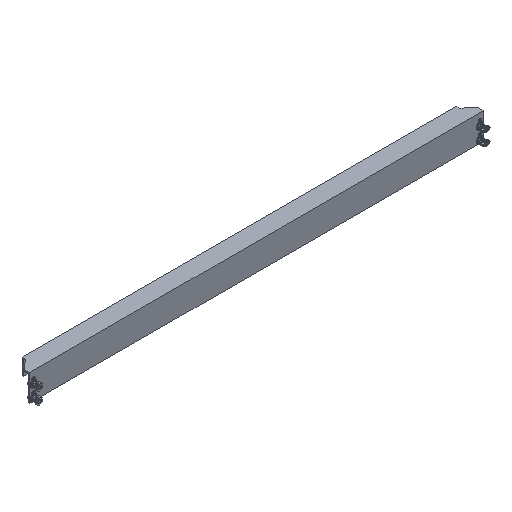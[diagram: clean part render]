
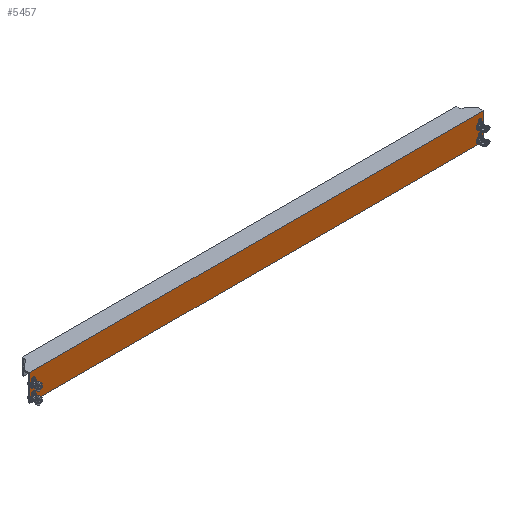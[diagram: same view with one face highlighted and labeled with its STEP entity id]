
A CAD part, isometric view. The second image highlights one B-rep face of the part: STEP entity #5457.
In plain terms, the highlighted planar face has unit normal (0, -1, 0) as drawn and (0, 0, -1) by its records, which use the part's own axes.
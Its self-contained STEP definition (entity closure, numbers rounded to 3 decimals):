
#4306 = VERTEX_POINT('',#4307);
#4307 = CARTESIAN_POINT('',(470.,16.5,-36.));
#4313 = EDGE_CURVE('',#4314,#4306,#4316,.T.);
#4314 = VERTEX_POINT('',#4315);
#4315 = CARTESIAN_POINT('',(-470.,16.5,-36.));
#4316 = LINE('',#4317,#4318);
#4317 = CARTESIAN_POINT('',(0.,16.5,-36.));
#4318 = VECTOR('',#4319,1.);
#4319 = DIRECTION('',(1.,-0.,-0.));
#5336 = VERTEX_POINT('',#5337);
#5337 = CARTESIAN_POINT('',(-470.,12.9,-36.));
#5352 = EDGE_CURVE('',#5336,#4314,#5353,.T.);
#5353 = LINE('',#5354,#5355);
#5354 = CARTESIAN_POINT('',(-470.,12.9,-36.));
#5355 = VECTOR('',#5356,1.);
#5356 = DIRECTION('',(-0.,1.,0.));
#5376 = VERTEX_POINT('',#5377);
#5377 = CARTESIAN_POINT('',(470.,12.9,-36.));
#5383 = EDGE_CURVE('',#5376,#4306,#5384,.T.);
#5384 = LINE('',#5385,#5386);
#5385 = CARTESIAN_POINT('',(470.,0.,-36.));
#5386 = VECTOR('',#5387,1.);
#5387 = DIRECTION('',(0.,1.,0.));
#5399 = EDGE_CURVE('',#5400,#5376,#5402,.T.);
#5400 = VERTEX_POINT('',#5401);
#5401 = CARTESIAN_POINT('',(470.,-38.5,-36.));
#5402 = LINE('',#5403,#5404);
#5403 = CARTESIAN_POINT('',(470.,13.5,-36.));
#5404 = VECTOR('',#5405,1.);
#5405 = DIRECTION('',(-0.,1.,0.));
#5439 = EDGE_CURVE('',#5336,#5440,#5442,.T.);
#5440 = VERTEX_POINT('',#5441);
#5441 = CARTESIAN_POINT('',(-470.,-38.5,-36.));
#5442 = LINE('',#5443,#5444);
#5443 = CARTESIAN_POINT('',(-470.,-38.5,-36.));
#5444 = VECTOR('',#5445,1.);
#5445 = DIRECTION('',(0.,-1.,0.));
#5457 = ADVANCED_FACE('',(#5458,#5494,#5530,#5566,#5602),#5615,.T.);
#5458 = FACE_BOUND('',#5459,.T.);
#5459 = EDGE_LOOP('',(#5460,#5471,#5479,#5488));
#5460 = ORIENTED_EDGE('',*,*,#5461,.F.);
#5461 = EDGE_CURVE('',#5462,#5464,#5466,.T.);
#5462 = VERTEX_POINT('',#5463);
#5463 = CARTESIAN_POINT('',(459.,-23.,-36.));
#5464 = VERTEX_POINT('',#5465);
#5465 = CARTESIAN_POINT('',(466.,-23.,-36.));
#5466 = CIRCLE('',#5467,3.5);
#5467 = AXIS2_PLACEMENT_3D('',#5468,#5469,#5470);
#5468 = CARTESIAN_POINT('',(462.5,-23.,-36.));
#5469 = DIRECTION('',(0.,0.,-1.));
#5470 = DIRECTION('',(0.,1.,0.));
#5471 = ORIENTED_EDGE('',*,*,#5472,.F.);
#5472 = EDGE_CURVE('',#5473,#5462,#5475,.T.);
#5473 = VERTEX_POINT('',#5474);
#5474 = CARTESIAN_POINT('',(459.,-32.,-36.));
#5475 = LINE('',#5476,#5477);
#5476 = CARTESIAN_POINT('',(459.,0.,-36.));
#5477 = VECTOR('',#5478,1.);
#5478 = DIRECTION('',(0.,1.,0.));
#5479 = ORIENTED_EDGE('',*,*,#5480,.F.);
#5480 = EDGE_CURVE('',#5481,#5473,#5483,.T.);
#5481 = VERTEX_POINT('',#5482);
#5482 = CARTESIAN_POINT('',(466.,-32.,-36.));
#5483 = CIRCLE('',#5484,3.5);
#5484 = AXIS2_PLACEMENT_3D('',#5485,#5486,#5487);
#5485 = CARTESIAN_POINT('',(462.5,-32.,-36.));
#5486 = DIRECTION('',(0.,0.,-1.));
#5487 = DIRECTION('',(0.,1.,0.));
#5488 = ORIENTED_EDGE('',*,*,#5489,.F.);
#5489 = EDGE_CURVE('',#5464,#5481,#5490,.T.);
#5490 = LINE('',#5491,#5492);
#5491 = CARTESIAN_POINT('',(466.,0.,-36.));
#5492 = VECTOR('',#5493,1.);
#5493 = DIRECTION('',(0.,-1.,0.));
#5494 = FACE_BOUND('',#5495,.T.);
#5495 = EDGE_LOOP('',(#5496,#5507,#5515,#5524));
#5496 = ORIENTED_EDGE('',*,*,#5497,.F.);
#5497 = EDGE_CURVE('',#5498,#5500,#5502,.T.);
#5498 = VERTEX_POINT('',#5499);
#5499 = CARTESIAN_POINT('',(-466.,-23.,-36.));
#5500 = VERTEX_POINT('',#5501);
#5501 = CARTESIAN_POINT('',(-459.,-23.,-36.));
#5502 = CIRCLE('',#5503,3.5);
#5503 = AXIS2_PLACEMENT_3D('',#5504,#5505,#5506);
#5504 = CARTESIAN_POINT('',(-462.5,-23.,-36.));
#5505 = DIRECTION('',(0.,0.,-1.));
#5506 = DIRECTION('',(0.,1.,0.));
#5507 = ORIENTED_EDGE('',*,*,#5508,.F.);
#5508 = EDGE_CURVE('',#5509,#5498,#5511,.T.);
#5509 = VERTEX_POINT('',#5510);
#5510 = CARTESIAN_POINT('',(-466.,-32.,-36.));
#5511 = LINE('',#5512,#5513);
#5512 = CARTESIAN_POINT('',(-466.,0.,-36.));
#5513 = VECTOR('',#5514,1.);
#5514 = DIRECTION('',(0.,1.,0.));
#5515 = ORIENTED_EDGE('',*,*,#5516,.F.);
#5516 = EDGE_CURVE('',#5517,#5509,#5519,.T.);
#5517 = VERTEX_POINT('',#5518);
#5518 = CARTESIAN_POINT('',(-459.,-32.,-36.));
#5519 = CIRCLE('',#5520,3.5);
#5520 = AXIS2_PLACEMENT_3D('',#5521,#5522,#5523);
#5521 = CARTESIAN_POINT('',(-462.5,-32.,-36.));
#5522 = DIRECTION('',(0.,0.,-1.));
#5523 = DIRECTION('',(0.,1.,0.));
#5524 = ORIENTED_EDGE('',*,*,#5525,.F.);
#5525 = EDGE_CURVE('',#5500,#5517,#5526,.T.);
#5526 = LINE('',#5527,#5528);
#5527 = CARTESIAN_POINT('',(-459.,0.,-36.));
#5528 = VECTOR('',#5529,1.);
#5529 = DIRECTION('',(0.,-1.,0.));
#5530 = FACE_BOUND('',#5531,.T.);
#5531 = EDGE_LOOP('',(#5532,#5543,#5551,#5560));
#5532 = ORIENTED_EDGE('',*,*,#5533,.F.);
#5533 = EDGE_CURVE('',#5534,#5536,#5538,.T.);
#5534 = VERTEX_POINT('',#5535);
#5535 = CARTESIAN_POINT('',(459.,2.,-36.));
#5536 = VERTEX_POINT('',#5537);
#5537 = CARTESIAN_POINT('',(466.,2.,-36.));
#5538 = CIRCLE('',#5539,3.5);
#5539 = AXIS2_PLACEMENT_3D('',#5540,#5541,#5542);
#5540 = CARTESIAN_POINT('',(462.5,2.,-36.));
#5541 = DIRECTION('',(0.,0.,-1.));
#5542 = DIRECTION('',(0.,1.,0.));
#5543 = ORIENTED_EDGE('',*,*,#5544,.F.);
#5544 = EDGE_CURVE('',#5545,#5534,#5547,.T.);
#5545 = VERTEX_POINT('',#5546);
#5546 = CARTESIAN_POINT('',(459.,-7.,-36.));
#5547 = LINE('',#5548,#5549);
#5548 = CARTESIAN_POINT('',(459.,0.,-36.));
#5549 = VECTOR('',#5550,1.);
#5550 = DIRECTION('',(0.,1.,0.));
#5551 = ORIENTED_EDGE('',*,*,#5552,.F.);
#5552 = EDGE_CURVE('',#5553,#5545,#5555,.T.);
#5553 = VERTEX_POINT('',#5554);
#5554 = CARTESIAN_POINT('',(466.,-7.,-36.));
#5555 = CIRCLE('',#5556,3.5);
#5556 = AXIS2_PLACEMENT_3D('',#5557,#5558,#5559);
#5557 = CARTESIAN_POINT('',(462.5,-7.,-36.));
#5558 = DIRECTION('',(0.,0.,-1.));
#5559 = DIRECTION('',(0.,1.,0.));
#5560 = ORIENTED_EDGE('',*,*,#5561,.F.);
#5561 = EDGE_CURVE('',#5536,#5553,#5562,.T.);
#5562 = LINE('',#5563,#5564);
#5563 = CARTESIAN_POINT('',(466.,0.,-36.));
#5564 = VECTOR('',#5565,1.);
#5565 = DIRECTION('',(0.,-1.,0.));
#5566 = FACE_BOUND('',#5567,.T.);
#5567 = EDGE_LOOP('',(#5568,#5579,#5587,#5596));
#5568 = ORIENTED_EDGE('',*,*,#5569,.F.);
#5569 = EDGE_CURVE('',#5570,#5572,#5574,.T.);
#5570 = VERTEX_POINT('',#5571);
#5571 = CARTESIAN_POINT('',(-466.,2.,-36.));
#5572 = VERTEX_POINT('',#5573);
#5573 = CARTESIAN_POINT('',(-459.,2.,-36.));
#5574 = CIRCLE('',#5575,3.5);
#5575 = AXIS2_PLACEMENT_3D('',#5576,#5577,#5578);
#5576 = CARTESIAN_POINT('',(-462.5,2.,-36.));
#5577 = DIRECTION('',(0.,0.,-1.));
#5578 = DIRECTION('',(0.,1.,0.));
#5579 = ORIENTED_EDGE('',*,*,#5580,.F.);
#5580 = EDGE_CURVE('',#5581,#5570,#5583,.T.);
#5581 = VERTEX_POINT('',#5582);
#5582 = CARTESIAN_POINT('',(-466.,-7.,-36.));
#5583 = LINE('',#5584,#5585);
#5584 = CARTESIAN_POINT('',(-466.,0.,-36.));
#5585 = VECTOR('',#5586,1.);
#5586 = DIRECTION('',(0.,1.,0.));
#5587 = ORIENTED_EDGE('',*,*,#5588,.F.);
#5588 = EDGE_CURVE('',#5589,#5581,#5591,.T.);
#5589 = VERTEX_POINT('',#5590);
#5590 = CARTESIAN_POINT('',(-459.,-7.,-36.));
#5591 = CIRCLE('',#5592,3.5);
#5592 = AXIS2_PLACEMENT_3D('',#5593,#5594,#5595);
#5593 = CARTESIAN_POINT('',(-462.5,-7.,-36.));
#5594 = DIRECTION('',(0.,0.,-1.));
#5595 = DIRECTION('',(0.,1.,0.));
#5596 = ORIENTED_EDGE('',*,*,#5597,.F.);
#5597 = EDGE_CURVE('',#5572,#5589,#5598,.T.);
#5598 = LINE('',#5599,#5600);
#5599 = CARTESIAN_POINT('',(-459.,0.,-36.));
#5600 = VECTOR('',#5601,1.);
#5601 = DIRECTION('',(0.,-1.,0.));
#5602 = FACE_BOUND('',#5603,.T.);
#5603 = EDGE_LOOP('',(#5604,#5605,#5606,#5607,#5608,#5609));
#5604 = ORIENTED_EDGE('',*,*,#5439,.F.);
#5605 = ORIENTED_EDGE('',*,*,#5352,.T.);
#5606 = ORIENTED_EDGE('',*,*,#4313,.T.);
#5607 = ORIENTED_EDGE('',*,*,#5383,.F.);
#5608 = ORIENTED_EDGE('',*,*,#5399,.F.);
#5609 = ORIENTED_EDGE('',*,*,#5610,.F.);
#5610 = EDGE_CURVE('',#5440,#5400,#5611,.T.);
#5611 = LINE('',#5612,#5613);
#5612 = CARTESIAN_POINT('',(470.,-38.5,-36.));
#5613 = VECTOR('',#5614,1.);
#5614 = DIRECTION('',(1.,0.,0.));
#5615 = PLANE('',#5616);
#5616 = AXIS2_PLACEMENT_3D('',#5617,#5618,#5619);
#5617 = CARTESIAN_POINT('',(0.,0.,-36.));
#5618 = DIRECTION('',(0.,0.,-1.));
#5619 = DIRECTION('',(0.,1.,0.));
